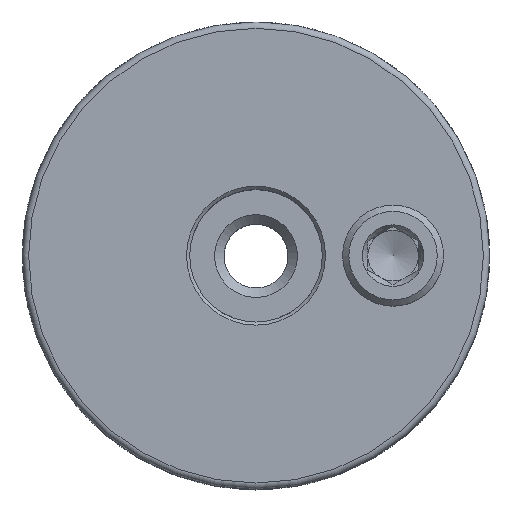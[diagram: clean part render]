
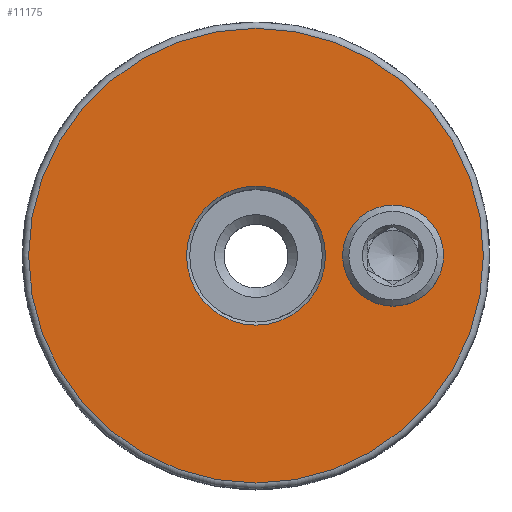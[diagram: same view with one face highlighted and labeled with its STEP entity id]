
A CAD part, top view. The second image highlights one B-rep face of the part: STEP entity #11175.
In plain terms, the highlighted planar face has unit normal (0, 0, 1).
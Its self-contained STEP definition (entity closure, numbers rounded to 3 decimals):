
#452=PLANE('',#12381);
#3121=CIRCLE('',#12382,11.);
#3122=CIRCLE('',#12383,36.);
#3123=CIRCLE('',#12384,8.);
#6159=ORIENTED_EDGE('',*,*,#7835,.T.);
#6160=ORIENTED_EDGE('',*,*,#7836,.T.);
#6161=ORIENTED_EDGE('',*,*,#7837,.F.);
#7835=EDGE_CURVE('',#8945,#8945,#3121,.F.);
#7836=EDGE_CURVE('',#8946,#8946,#3122,.T.);
#7837=EDGE_CURVE('',#8947,#8947,#3123,.T.);
#8945=VERTEX_POINT('',#18935);
#8946=VERTEX_POINT('',#18937);
#8947=VERTEX_POINT('',#18939);
#9650=EDGE_LOOP('',(#6159));
#9651=EDGE_LOOP('',(#6160));
#9652=EDGE_LOOP('',(#6161));
#10348=FACE_BOUND('',#9650,.T.);
#10349=FACE_BOUND('',#9651,.T.);
#10350=FACE_BOUND('',#9652,.T.);
#11175=ADVANCED_FACE('',(#10348,#10349,#10350),#452,.T.);
#12381=AXIS2_PLACEMENT_3D('',#18933,#15416,#15417);
#12382=AXIS2_PLACEMENT_3D('',#18934,#15418,#15419);
#12383=AXIS2_PLACEMENT_3D('',#18936,#15420,#15421);
#12384=AXIS2_PLACEMENT_3D('',#18938,#15422,#15423);
#15416=DIRECTION('',(0.,0.,1.));
#15417=DIRECTION('',(1.,0.,0.));
#15418=DIRECTION('',(0.,0.,1.));
#15419=DIRECTION('',(1.,0.,0.));
#15420=DIRECTION('',(0.,0.,1.));
#15421=DIRECTION('',(1.,0.,0.));
#15422=DIRECTION('',(0.,0.,1.));
#15423=DIRECTION('',(1.,0.,0.));
#18933=CARTESIAN_POINT('',(10.5,0.,34.));
#18934=CARTESIAN_POINT('',(0.,0.,34.));
#18935=CARTESIAN_POINT('',(11.,0.,34.));
#18936=CARTESIAN_POINT('',(0.,0.,34.));
#18937=CARTESIAN_POINT('',(36.,0.,34.));
#18938=CARTESIAN_POINT('',(21.7,0.,34.));
#18939=CARTESIAN_POINT('',(29.7,0.,34.));
